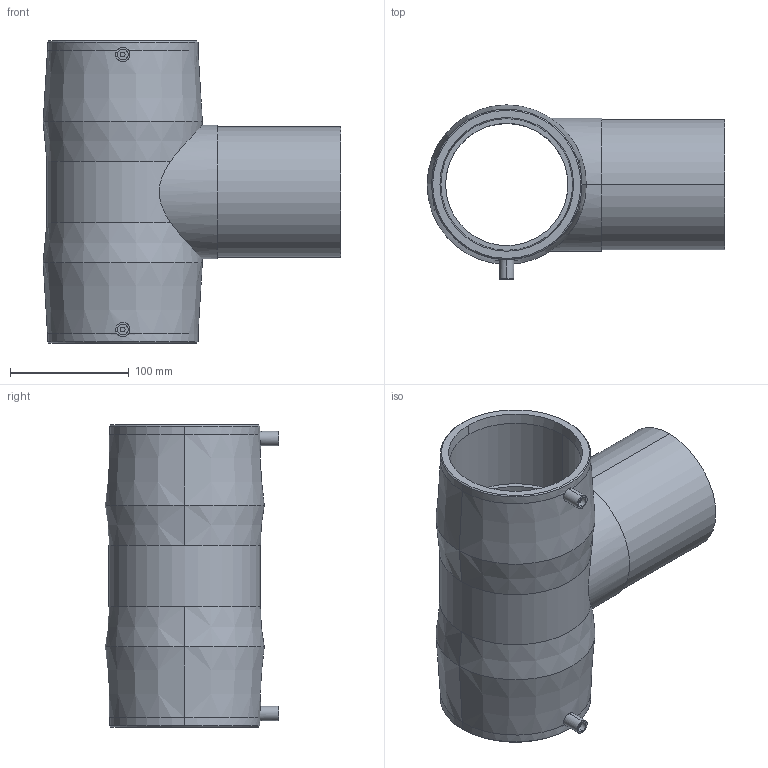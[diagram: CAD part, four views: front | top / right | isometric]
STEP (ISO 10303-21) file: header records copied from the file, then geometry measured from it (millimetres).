
FILE_DESCRIPTION (( 'STEP AP203' ), '1' );
FILE_NAME ('KP_28-110.step', '2011-08-08T11:39:20', ( '' ), ( '' ), 'SwSTEP 2.0', 'SolidWorks 2011', '' );
FILE_SCHEMA (( 'CONFIG_CONTROL_DESIGN' ));
Length unit declared in the file: millimetre
Products named in the file (1): KP_28-110
Bounding box: 251.16 x 146.66 x 255 mm (x, y, z)
Volume: 1393416 mm3; surface area: 272721.8 mm2
Topology: 1 solids, 1 shells, 57 faces, 131 edges, 82 vertices
Faces by surface type: cylinder 29, cone 16, plane 12
Entity records: 2144 total; most frequent: CARTESIAN_POINT 735, DIRECTION 301, ORIENTED_EDGE 262, EDGE_CURVE 131, AXIS2_PLACEMENT_3D 128, VERTEX_POINT 82, CIRCLE 70, EDGE_LOOP 67
